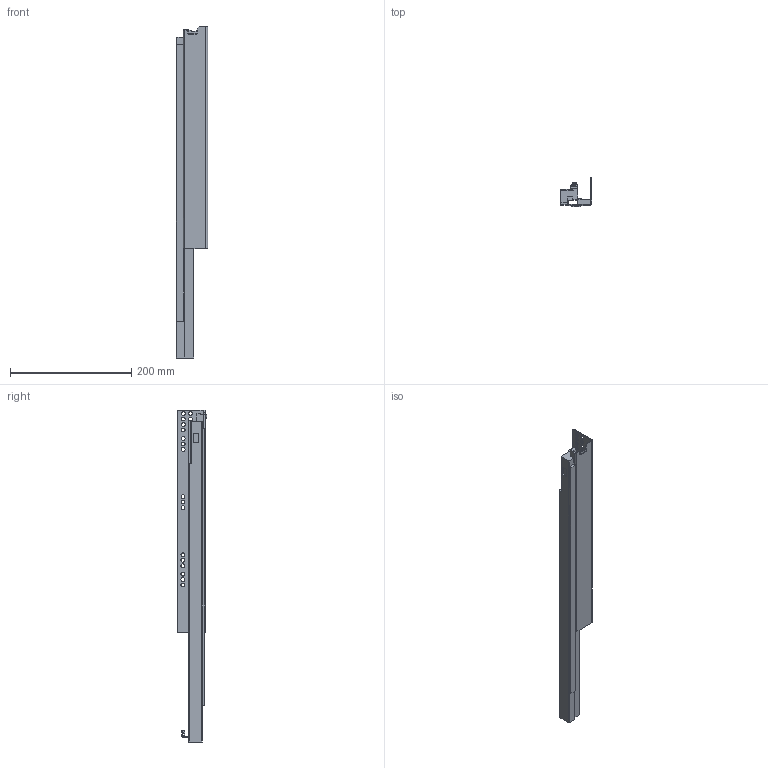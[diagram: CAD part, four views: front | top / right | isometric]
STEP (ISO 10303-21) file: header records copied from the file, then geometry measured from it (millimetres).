
FILE_DESCRIPTION (( 'STEP AP203' ), '1' );
FILE_NAME ('TS10550H-R-DTC3D-close.STEP', '2021-07-09T05:34:21', ( 'df' ), ( 'Microsoft' ), 'SwSTEP 2.0', 'SolidWorks 2018', '' );
FILE_SCHEMA (( 'CONFIG_CONTROL_DESIGN' ));
Length unit declared in the file: millimetre
Products named in the file (1): TS10550H-R-DTC3D-close
Bounding box: 51.73 x 48 x 548 mm (x, y, z)
Volume: 416317.2 mm3; surface area: 119075.9 mm2
Topology: 1 solids, 1 shells, 347 faces, 986 edges, 649 vertices
Faces by surface type: plane 153, cylinder 128, bspline 47, torus 15, sphere 4
Entity records: 13169 total; most frequent: CARTESIAN_POINT 4090, ORIENTED_EDGE 1964, DIRECTION 1740, EDGE_CURVE 982, VERTEX_POINT 649, AXIS2_PLACEMENT_3D 589, VECTOR 562, LINE 562
